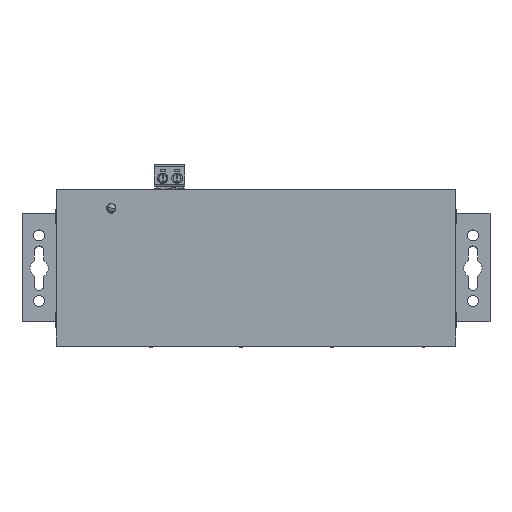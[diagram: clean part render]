
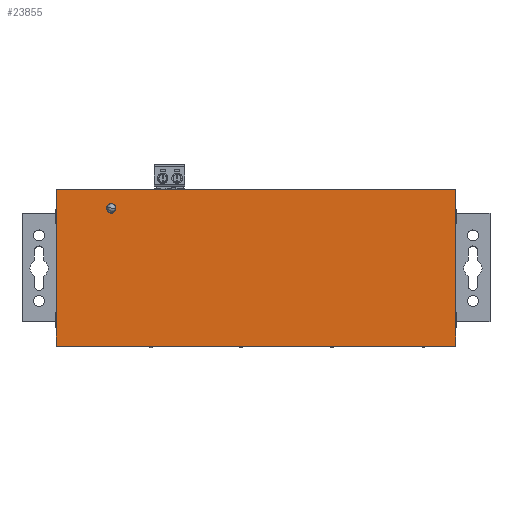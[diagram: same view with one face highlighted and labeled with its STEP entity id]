
A CAD part, top view. The second image highlights one B-rep face of the part: STEP entity #23855.
In plain terms, the highlighted planar face has unit normal (0, 0, 1).
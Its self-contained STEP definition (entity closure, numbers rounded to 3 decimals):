
#4139 = CYLINDRICAL_SURFACE('',#4140,1.8);
#4140 = AXIS2_PLACEMENT_3D('',#4141,#4142,#4143);
#4141 = CARTESIAN_POINT('',(34.05,52.55,20.));
#4142 = DIRECTION('',(0.,0.,1.));
#4143 = DIRECTION('',(1.,0.,0.));
#9492 = EDGE_CURVE('',#9493,#9493,#9495,.T.);
#9493 = VERTEX_POINT('',#9494);
#9494 = CARTESIAN_POINT('',(35.85,52.55,25.45));
#9495 = SURFACE_CURVE('',#9496,(#9501,#9508),.PCURVE_S1.);
#9496 = CIRCLE('',#9497,1.8);
#9497 = AXIS2_PLACEMENT_3D('',#9498,#9499,#9500);
#9498 = CARTESIAN_POINT('',(34.05,52.55,25.45));
#9499 = DIRECTION('',(0.,0.,1.));
#9500 = DIRECTION('',(1.,0.,0.));
#9501 = PCURVE('',#4139,#9502);
#9502 = DEFINITIONAL_REPRESENTATION('',(#9503),#9507);
#9503 = LINE('',#9504,#9505);
#9504 = CARTESIAN_POINT('',(0.,5.45));
#9505 = VECTOR('',#9506,1.);
#9506 = DIRECTION('',(1.,0.));
#9507 = ( GEOMETRIC_REPRESENTATION_CONTEXT(2) 
PARAMETRIC_REPRESENTATION_CONTEXT() REPRESENTATION_CONTEXT('2D SPACE',''
  ) );
#9508 = PCURVE('',#9509,#9514);
#9509 = PLANE('',#9510);
#9510 = AXIS2_PLACEMENT_3D('',#9511,#9512,#9513);
#9511 = CARTESIAN_POINT('',(0.,0.,25.45));
#9512 = DIRECTION('',(0.,0.,1.));
#9513 = DIRECTION('',(1.,0.,0.));
#9514 = DEFINITIONAL_REPRESENTATION('',(#9515),#9519);
#9515 = CIRCLE('',#9516,1.8);
#9516 = AXIS2_PLACEMENT_2D('',#9517,#9518);
#9517 = CARTESIAN_POINT('',(34.05,52.55));
#9518 = DIRECTION('',(1.,0.));
#9519 = ( GEOMETRIC_REPRESENTATION_CONTEXT(2) 
PARAMETRIC_REPRESENTATION_CONTEXT() REPRESENTATION_CONTEXT('2D SPACE',''
  ) );
#11083 = PLANE('',#11084);
#11084 = AXIS2_PLACEMENT_3D('',#11085,#11086,#11087);
#11085 = CARTESIAN_POINT('',(0.,59.9,0.));
#11086 = DIRECTION('',(0.,1.,0.));
#11087 = DIRECTION('',(0.,0.,1.));
#20768 = PLANE('',#20769);
#20769 = AXIS2_PLACEMENT_3D('',#20770,#20771,#20772);
#20770 = CARTESIAN_POINT('',(13.,9.25,0.));
#20771 = DIRECTION('',(-1.,0.,0.));
#20772 = DIRECTION('',(0.,0.,-1.));
#22371 = PLANE('',#22372);
#22372 = AXIS2_PLACEMENT_3D('',#22373,#22374,#22375);
#22373 = CARTESIAN_POINT('',(165.6,0.,0.));
#22374 = DIRECTION('',(1.,0.,0.));
#22375 = DIRECTION('',(0.,0.,1.));
#23855 = ADVANCED_FACE('',(#23856,#23953),#9509,.T.);
#23856 = FACE_BOUND('',#23857,.T.);
#23857 = EDGE_LOOP('',(#23858,#23883,#23905,#23933));
#23858 = ORIENTED_EDGE('',*,*,#23859,.F.);
#23859 = EDGE_CURVE('',#23860,#23862,#23864,.T.);
#23860 = VERTEX_POINT('',#23861);
#23861 = CARTESIAN_POINT('',(13.,59.9,25.45));
#23862 = VERTEX_POINT('',#23863);
#23863 = CARTESIAN_POINT('',(165.6,59.9,25.45));
#23864 = SURFACE_CURVE('',#23865,(#23869,#23876),.PCURVE_S1.);
#23865 = LINE('',#23866,#23867);
#23866 = CARTESIAN_POINT('',(0.,59.9,25.45));
#23867 = VECTOR('',#23868,1.);
#23868 = DIRECTION('',(1.,0.,0.));
#23869 = PCURVE('',#9509,#23870);
#23870 = DEFINITIONAL_REPRESENTATION('',(#23871),#23875);
#23871 = LINE('',#23872,#23873);
#23872 = CARTESIAN_POINT('',(0.,59.9));
#23873 = VECTOR('',#23874,1.);
#23874 = DIRECTION('',(1.,0.));
#23875 = ( GEOMETRIC_REPRESENTATION_CONTEXT(2) 
PARAMETRIC_REPRESENTATION_CONTEXT() REPRESENTATION_CONTEXT('2D SPACE',''
  ) );
#23876 = PCURVE('',#11083,#23877);
#23877 = DEFINITIONAL_REPRESENTATION('',(#23878),#23882);
#23878 = LINE('',#23879,#23880);
#23879 = CARTESIAN_POINT('',(25.45,0.));
#23880 = VECTOR('',#23881,1.);
#23881 = DIRECTION('',(0.,1.));
#23882 = ( GEOMETRIC_REPRESENTATION_CONTEXT(2) 
PARAMETRIC_REPRESENTATION_CONTEXT() REPRESENTATION_CONTEXT('2D SPACE',''
  ) );
#23883 = ORIENTED_EDGE('',*,*,#23884,.F.);
#23884 = EDGE_CURVE('',#23885,#23860,#23887,.T.);
#23885 = VERTEX_POINT('',#23886);
#23886 = CARTESIAN_POINT('',(13.,0.,25.45));
#23887 = SURFACE_CURVE('',#23888,(#23892,#23898),.PCURVE_S1.);
#23888 = LINE('',#23889,#23890);
#23889 = CARTESIAN_POINT('',(13.,0.,25.45));
#23890 = VECTOR('',#23891,1.);
#23891 = DIRECTION('',(0.,1.,0.));
#23892 = PCURVE('',#9509,#23893);
#23893 = DEFINITIONAL_REPRESENTATION('',(#23894),#23897);
#23894 = B_SPLINE_CURVE_WITH_KNOTS('',1,(#23895,#23896),.UNSPECIFIED.,
  .F.,.F.,(2,2),(-5.99,65.89),.PIECEWISE_BEZIER_KNOTS.);
#23895 = CARTESIAN_POINT('',(13.,-5.99));
#23896 = CARTESIAN_POINT('',(13.,65.89));
#23897 = ( GEOMETRIC_REPRESENTATION_CONTEXT(2) 
PARAMETRIC_REPRESENTATION_CONTEXT() REPRESENTATION_CONTEXT('2D SPACE',''
  ) );
#23898 = PCURVE('',#20768,#23899);
#23899 = DEFINITIONAL_REPRESENTATION('',(#23900),#23904);
#23900 = LINE('',#23901,#23902);
#23901 = CARTESIAN_POINT('',(-25.45,9.25));
#23902 = VECTOR('',#23903,1.);
#23903 = DIRECTION('',(0.,-1.));
#23904 = ( GEOMETRIC_REPRESENTATION_CONTEXT(2) 
PARAMETRIC_REPRESENTATION_CONTEXT() REPRESENTATION_CONTEXT('2D SPACE',''
  ) );
#23905 = ORIENTED_EDGE('',*,*,#23906,.T.);
#23906 = EDGE_CURVE('',#23885,#23907,#23909,.T.);
#23907 = VERTEX_POINT('',#23908);
#23908 = CARTESIAN_POINT('',(165.6,0.,25.45));
#23909 = SURFACE_CURVE('',#23910,(#23914,#23921),.PCURVE_S1.);
#23910 = LINE('',#23911,#23912);
#23911 = CARTESIAN_POINT('',(0.,0.,25.45));
#23912 = VECTOR('',#23913,1.);
#23913 = DIRECTION('',(1.,0.,0.));
#23914 = PCURVE('',#9509,#23915);
#23915 = DEFINITIONAL_REPRESENTATION('',(#23916),#23920);
#23916 = LINE('',#23917,#23918);
#23917 = CARTESIAN_POINT('',(0.,0.));
#23918 = VECTOR('',#23919,1.);
#23919 = DIRECTION('',(1.,0.));
#23920 = ( GEOMETRIC_REPRESENTATION_CONTEXT(2) 
PARAMETRIC_REPRESENTATION_CONTEXT() REPRESENTATION_CONTEXT('2D SPACE',''
  ) );
#23921 = PCURVE('',#23922,#23927);
#23922 = PLANE('',#23923);
#23923 = AXIS2_PLACEMENT_3D('',#23924,#23925,#23926);
#23924 = CARTESIAN_POINT('',(0.,0.,0.));
#23925 = DIRECTION('',(0.,1.,0.));
#23926 = DIRECTION('',(0.,0.,1.));
#23927 = DEFINITIONAL_REPRESENTATION('',(#23928),#23932);
#23928 = LINE('',#23929,#23930);
#23929 = CARTESIAN_POINT('',(25.45,0.));
#23930 = VECTOR('',#23931,1.);
#23931 = DIRECTION('',(0.,1.));
#23932 = ( GEOMETRIC_REPRESENTATION_CONTEXT(2) 
PARAMETRIC_REPRESENTATION_CONTEXT() REPRESENTATION_CONTEXT('2D SPACE',''
  ) );
#23933 = ORIENTED_EDGE('',*,*,#23934,.T.);
#23934 = EDGE_CURVE('',#23907,#23862,#23935,.T.);
#23935 = SURFACE_CURVE('',#23936,(#23940,#23946),.PCURVE_S1.);
#23936 = LINE('',#23937,#23938);
#23937 = CARTESIAN_POINT('',(165.6,0.,25.45));
#23938 = VECTOR('',#23939,1.);
#23939 = DIRECTION('',(0.,1.,0.));
#23940 = PCURVE('',#9509,#23941);
#23941 = DEFINITIONAL_REPRESENTATION('',(#23942),#23945);
#23942 = B_SPLINE_CURVE_WITH_KNOTS('',1,(#23943,#23944),.UNSPECIFIED.,
  .F.,.F.,(2,2),(-5.99,65.89),.PIECEWISE_BEZIER_KNOTS.);
#23943 = CARTESIAN_POINT('',(165.6,-5.99));
#23944 = CARTESIAN_POINT('',(165.6,65.89));
#23945 = ( GEOMETRIC_REPRESENTATION_CONTEXT(2) 
PARAMETRIC_REPRESENTATION_CONTEXT() REPRESENTATION_CONTEXT('2D SPACE',''
  ) );
#23946 = PCURVE('',#22371,#23947);
#23947 = DEFINITIONAL_REPRESENTATION('',(#23948),#23952);
#23948 = LINE('',#23949,#23950);
#23949 = CARTESIAN_POINT('',(25.45,0.));
#23950 = VECTOR('',#23951,1.);
#23951 = DIRECTION('',(0.,-1.));
#23952 = ( GEOMETRIC_REPRESENTATION_CONTEXT(2) 
PARAMETRIC_REPRESENTATION_CONTEXT() REPRESENTATION_CONTEXT('2D SPACE',''
  ) );
#23953 = FACE_BOUND('',#23954,.T.);
#23954 = EDGE_LOOP('',(#23955));
#23955 = ORIENTED_EDGE('',*,*,#9492,.F.);
